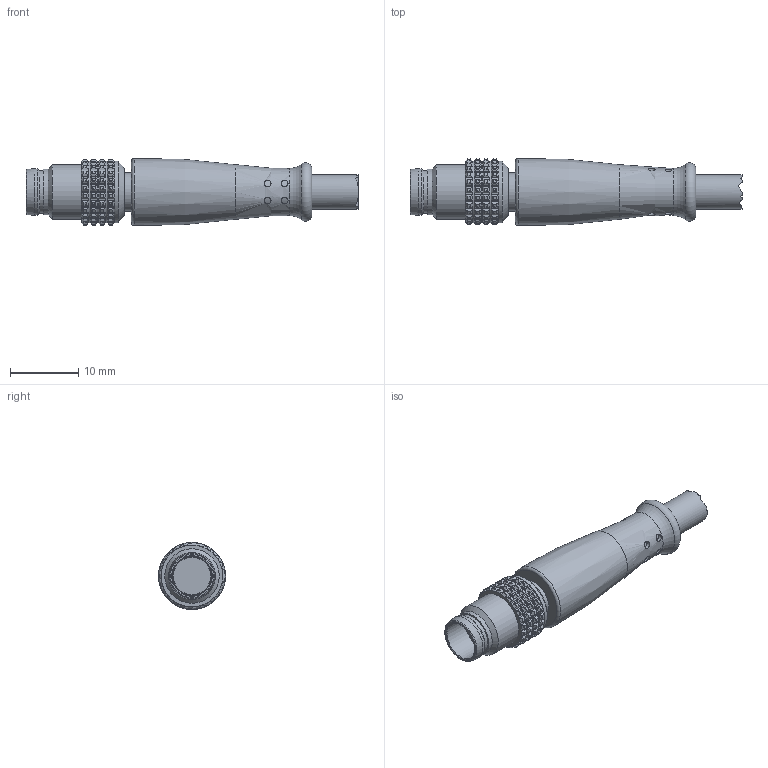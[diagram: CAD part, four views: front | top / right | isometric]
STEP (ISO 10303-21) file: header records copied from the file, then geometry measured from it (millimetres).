
FILE_DESCRIPTION((''),'2;1');
FILE_NAME('C:\Users\enrico\Desktop\Ale\Sito\AUTOMAZIONE_2020\Connettori circolari per sensori e attuatori\Singola testa\Step\M8 Ma ass.stp','2020-06-24T16:53:01',('Tecnico2'),(''),'Autodesk Inventor 2012','Autodesk Inventor 2012','');
FILE_SCHEMA(('AUTOMOTIVE_DESIGN { 1 0 10303 214 1 1 1 1 }'));
Length unit declared in the file: millimetre
Products named in the file (4): C08M3A1; ghiera M8 maschio x snap; bussola snap M8
Assembly tree (3 placements, depth 2):
  C08M3A1
    C08M3A1
    ghiera M8 maschio x snap
    bussola snap M8
Bounding box: 48.78 x 9.86 x 9.86 mm (x, y, z)
Volume: 2343.9 mm3; surface area: 2268.6 mm2
Topology: 3 solids, 3 shells, 1368 faces, 3926 edges, 2565 vertices
Faces by surface type: bspline 401, plane 323, cylinder 228, cone 184, torus 120, sphere 112
Full cylindrical faces by diameter (mm): 1 x8, 5.001 x1, 5.6 x1, 5.7 x2, 5.78 x2, 6.2 x2, 6.3 x1, 6.75 x1, 6.9 x1, 8 x1, 9.1 x4
Entity records: 59923 total; most frequent: CARTESIAN_POINT 30396, ORIENTED_EDGE 7730, DIRECTION 4220, EDGE_CURVE 3865, VERTEX_POINT 2558, AXIS2_PLACEMENT_3D 1852, B_SPLINE_CURVE_WITH_KNOTS 1696, EDGE_LOOP 1427
